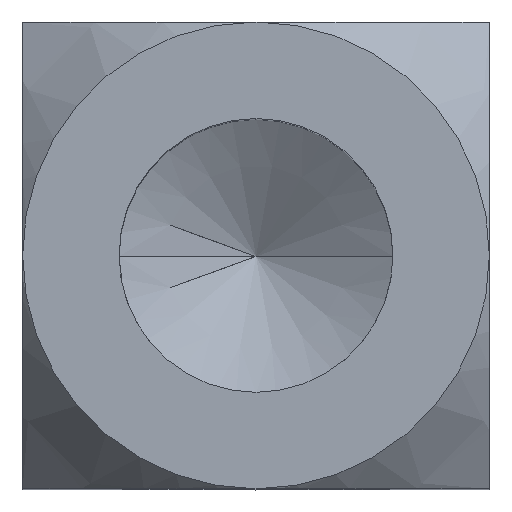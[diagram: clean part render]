
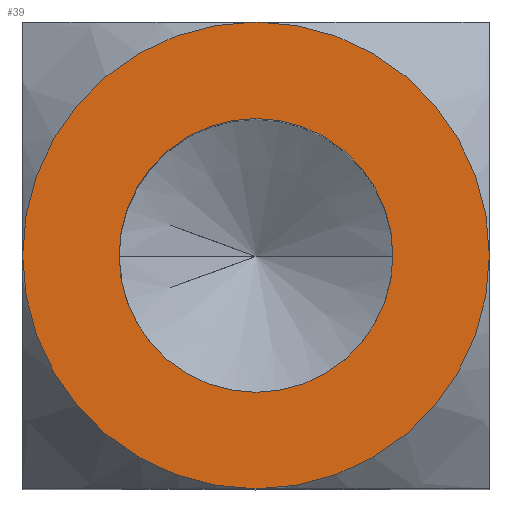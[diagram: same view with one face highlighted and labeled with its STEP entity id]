
A CAD part, top view. The second image highlights one B-rep face of the part: STEP entity #39.
In plain terms, the highlighted planar face has unit normal (0, 0, 1).
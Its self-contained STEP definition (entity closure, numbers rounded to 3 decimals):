
#4 = EDGE_LOOP ( 'NONE', ( #1085, #1043, #693, #380 ) ) ;
#13 = AXIS2_PLACEMENT_3D ( 'NONE', #195, #1077, #457 ) ;
#15 = DIRECTION ( 'NONE',  ( 0., 0., 1. ) ) ;
#17 = DIRECTION ( 'NONE',  ( 0., 0., 1. ) ) ;
#27 = PLANE ( 'NONE',  #189 ) ;
#34 = CARTESIAN_POINT ( 'NONE',  ( 4.4, 0., 22. ) ) ;
#39 = ADVANCED_FACE ( 'NONE', ( #906, #1008 ), #27, .T. ) ;
#132 = ORIENTED_EDGE ( 'NONE', *, *, #989, .F. ) ;
#189 = AXIS2_PLACEMENT_3D ( 'NONE', #550, #369, #739 ) ;
#195 = CARTESIAN_POINT ( 'NONE',  ( 0., 0., 22. ) ) ;
#204 = CARTESIAN_POINT ( 'NONE',  ( -4.4, 0., 22. ) ) ;
#220 = VERTEX_POINT ( 'NONE', #951 ) ;
#258 = CIRCLE ( 'NONE', #677, 7.5 ) ;
#261 = DIRECTION ( 'NONE',  ( -1., 0., 0. ) ) ;
#286 = DIRECTION ( 'NONE',  ( -1., 0., 0. ) ) ;
#288 = EDGE_CURVE ( 'NONE', #507, #220, #258, .T. ) ;
#294 = AXIS2_PLACEMENT_3D ( 'NONE', #1090, #472, #286 ) ;
#344 = DIRECTION ( 'NONE',  ( 0., -1., 0. ) ) ;
#357 = CARTESIAN_POINT ( 'NONE',  ( 7.5, 0., 22. ) ) ;
#365 = AXIS2_PLACEMENT_3D ( 'NONE', #993, #17, #824 ) ;
#369 = DIRECTION ( 'NONE',  ( 0., 0., 1. ) ) ;
#378 = EDGE_CURVE ( 'NONE', #440, #1048, #621, .T. ) ;
#380 = ORIENTED_EDGE ( 'NONE', *, *, #288, .T. ) ;
#383 = ORIENTED_EDGE ( 'NONE', *, *, #378, .F. ) ;
#396 = VERTEX_POINT ( 'NONE', #357 ) ;
#420 = DIRECTION ( 'NONE',  ( 0., 0., 1. ) ) ;
#440 = VERTEX_POINT ( 'NONE', #34 ) ;
#446 = AXIS2_PLACEMENT_3D ( 'NONE', #562, #996, #987 ) ;
#457 = DIRECTION ( 'NONE',  ( -1., 0., 0. ) ) ;
#472 = DIRECTION ( 'NONE',  ( 0., 0., 1. ) ) ;
#507 = VERTEX_POINT ( 'NONE', #1011 ) ;
#550 = CARTESIAN_POINT ( 'NONE',  ( -7.59, -7.59, 22. ) ) ;
#562 = CARTESIAN_POINT ( 'NONE',  ( 0., 0., 22. ) ) ;
#584 = AXIS2_PLACEMENT_3D ( 'NONE', #881, #15, #344 ) ;
#621 = CIRCLE ( 'NONE', #365, 4.4 ) ;
#657 = CIRCLE ( 'NONE', #446, 7.5 ) ;
#677 = AXIS2_PLACEMENT_3D ( 'NONE', #962, #420, #261 ) ;
#693 = ORIENTED_EDGE ( 'NONE', *, *, #1033, .T. ) ;
#739 = DIRECTION ( 'NONE',  ( 1., 0., 0. ) ) ;
#768 = VERTEX_POINT ( 'NONE', #975 ) ;
#824 = DIRECTION ( 'NONE',  ( 0., -1., 0. ) ) ;
#869 = CIRCLE ( 'NONE', #13, 7.5 ) ;
#881 = CARTESIAN_POINT ( 'NONE',  ( 0., 0., 22. ) ) ;
#906 = FACE_BOUND ( 'NONE', #1091, .T. ) ;
#951 = CARTESIAN_POINT ( 'NONE',  ( 0., -7.5, 22. ) ) ;
#962 = CARTESIAN_POINT ( 'NONE',  ( 0., 0., 22. ) ) ;
#975 = CARTESIAN_POINT ( 'NONE',  ( 0., 7.5, 22. ) ) ;
#987 = DIRECTION ( 'NONE',  ( -1., 0., 0. ) ) ;
#989 = EDGE_CURVE ( 'NONE', #1048, #440, #1078, .T. ) ;
#993 = CARTESIAN_POINT ( 'NONE',  ( 0., 0., 22. ) ) ;
#996 = DIRECTION ( 'NONE',  ( 0., 0., 1. ) ) ;
#1004 = CIRCLE ( 'NONE', #294, 7.5 ) ;
#1008 = FACE_OUTER_BOUND ( 'NONE', #4, .T. ) ;
#1011 = CARTESIAN_POINT ( 'NONE',  ( -7.5, 0., 22. ) ) ;
#1033 = EDGE_CURVE ( 'NONE', #768, #507, #657, .T. ) ;
#1043 = ORIENTED_EDGE ( 'NONE', *, *, #1094, .T. ) ;
#1048 = VERTEX_POINT ( 'NONE', #204 ) ;
#1065 = EDGE_CURVE ( 'NONE', #220, #396, #869, .T. ) ;
#1077 = DIRECTION ( 'NONE',  ( 0., 0., 1. ) ) ;
#1078 = CIRCLE ( 'NONE', #584, 4.4 ) ;
#1085 = ORIENTED_EDGE ( 'NONE', *, *, #1065, .T. ) ;
#1090 = CARTESIAN_POINT ( 'NONE',  ( 0., 0., 22. ) ) ;
#1091 = EDGE_LOOP ( 'NONE', ( #383, #132 ) ) ;
#1094 = EDGE_CURVE ( 'NONE', #396, #768, #1004, .T. ) ;
